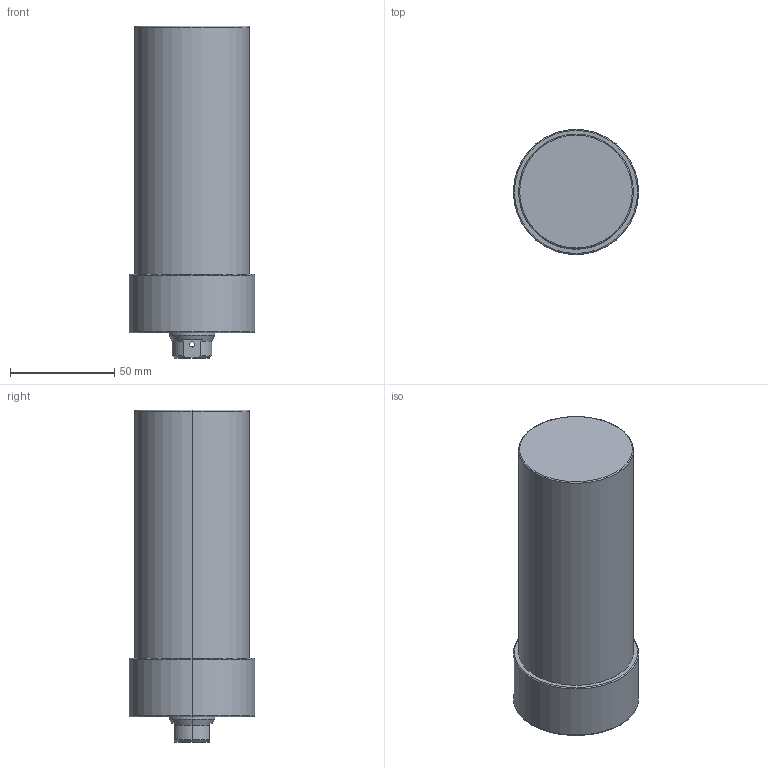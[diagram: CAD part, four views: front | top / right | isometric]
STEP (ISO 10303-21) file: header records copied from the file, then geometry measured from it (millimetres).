
FILE_DESCRIPTION (( 'STEP AP203' ), '1' );
FILE_NAME ('CLLU055-CB-090.STEP', '2017-05-15T08:21:38', ( '' ), ( '' ), 'SwSTEP 2.0', 'SolidWorks 2015', '' );
FILE_SCHEMA (( 'CONFIG_CONTROL_DESIGN' ));
Length unit declared in the file: millimetre
Products named in the file (1): CLLU055-CB-090
Bounding box: 60 x 60 x 159 mm (x, y, z)
Volume: 362182.5 mm3; surface area: 33932.8 mm2
Topology: 1 solids, 1 shells, 68 faces, 155 edges, 88 vertices
Faces by surface type: cylinder 27, cone 25, plane 10, torus 6
Entity records: 2021 total; most frequent: CARTESIAN_POINT 422, DIRECTION 350, ORIENTED_EDGE 290, AXIS2_PLACEMENT_3D 148, EDGE_CURVE 145, VERTEX_POINT 88, EDGE_LOOP 81, CIRCLE 79
